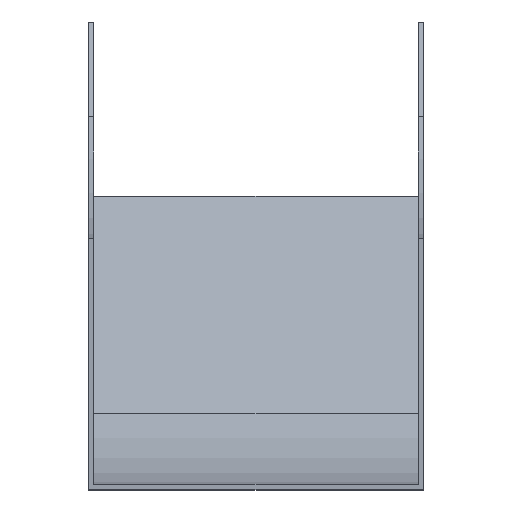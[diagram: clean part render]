
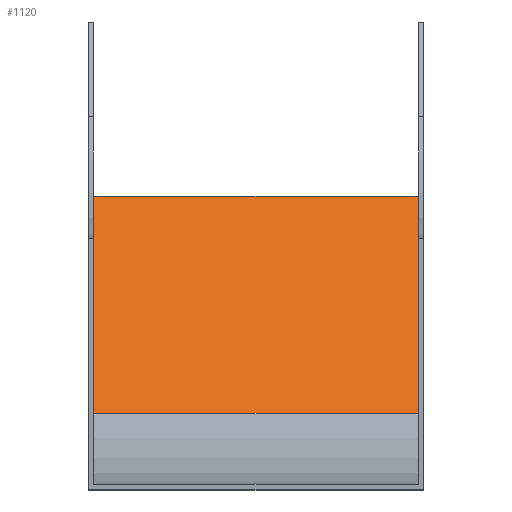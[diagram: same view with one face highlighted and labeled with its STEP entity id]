
A CAD part, top view. The second image highlights one B-rep face of the part: STEP entity #1120.
In plain terms, the highlighted planar face has unit normal (0, 0.707, 0.707).
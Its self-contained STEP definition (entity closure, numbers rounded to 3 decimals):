
#80 = CARTESIAN_POINT ( 'NONE',  ( 50., 12.924, -208.645 ) ) ;
#89 = CARTESIAN_POINT ( 'NONE',  ( -48.5, -51.972, -143.749 ) ) ;
#124 = LINE ( 'NONE', #641, #1304 ) ;
#216 = DIRECTION ( 'NONE',  ( 0., 0.707, 0.707 ) ) ;
#306 = LINE ( 'NONE', #454, #1655 ) ;
#371 = CARTESIAN_POINT ( 'NONE',  ( -48.5, 12.924, -208.645 ) ) ;
#394 = DIRECTION ( 'NONE',  ( 0., 0.707, -0.707 ) ) ;
#423 = CARTESIAN_POINT ( 'NONE',  ( 48.5, -51.972, -143.749 ) ) ;
#454 = CARTESIAN_POINT ( 'NONE',  ( -48.5, 12.924, -208.645 ) ) ;
#484 = DIRECTION ( 'NONE',  ( 0., -0.707, 0.707 ) ) ;
#512 = EDGE_CURVE ( 'NONE', #1511, #1245, #124, .T. ) ;
#537 = ORIENTED_EDGE ( 'NONE', *, *, #512, .F. ) ;
#610 = ORIENTED_EDGE ( 'NONE', *, *, #1194, .T. ) ;
#641 = CARTESIAN_POINT ( 'NONE',  ( 50., -51.972, -143.749 ) ) ;
#643 = EDGE_CURVE ( 'NONE', #1511, #1575, #953, .T. ) ;
#740 = CARTESIAN_POINT ( 'NONE',  ( 50., 12.924, -208.645 ) ) ;
#764 = EDGE_CURVE ( 'NONE', #1245, #985, #306, .T. ) ;
#784 = ORIENTED_EDGE ( 'NONE', *, *, #764, .F. ) ;
#819 = CARTESIAN_POINT ( 'NONE',  ( 48.5, 12.924, -208.645 ) ) ;
#953 = LINE ( 'NONE', #819, #1379 ) ;
#984 = AXIS2_PLACEMENT_3D ( 'NONE', #80, #216, #484 ) ;
#985 = VERTEX_POINT ( 'NONE', #371 ) ;
#1093 = FACE_OUTER_BOUND ( 'NONE', #1158, .T. ) ;
#1100 = DIRECTION ( 'NONE',  ( 0., 0.707, -0.707 ) ) ;
#1120 = ADVANCED_FACE ( 'NONE', ( #1093 ), #1340, .T. ) ;
#1158 = EDGE_LOOP ( 'NONE', ( #784, #537, #1163, #610 ) ) ;
#1162 = DIRECTION ( 'NONE',  ( -1., 0., 0. ) ) ;
#1163 = ORIENTED_EDGE ( 'NONE', *, *, #643, .T. ) ;
#1194 = EDGE_CURVE ( 'NONE', #1575, #985, #1255, .T. ) ;
#1245 = VERTEX_POINT ( 'NONE', #89 ) ;
#1255 = LINE ( 'NONE', #740, #1519 ) ;
#1304 = VECTOR ( 'NONE', #1162, 1000. ) ;
#1340 = PLANE ( 'NONE',  #984 ) ;
#1379 = VECTOR ( 'NONE', #394, 1000. ) ;
#1511 = VERTEX_POINT ( 'NONE', #423 ) ;
#1519 = VECTOR ( 'NONE', #1523, 1000. ) ;
#1523 = DIRECTION ( 'NONE',  ( -1., 0., 0. ) ) ;
#1575 = VERTEX_POINT ( 'NONE', #1608 ) ;
#1608 = CARTESIAN_POINT ( 'NONE',  ( 48.5, 12.924, -208.645 ) ) ;
#1655 = VECTOR ( 'NONE', #1100, 1000. ) ;
